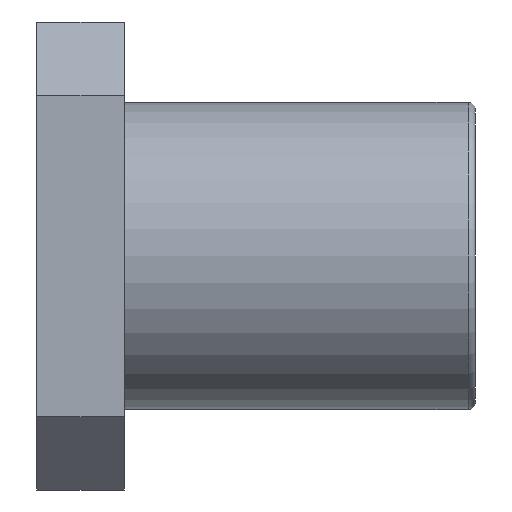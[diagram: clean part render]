
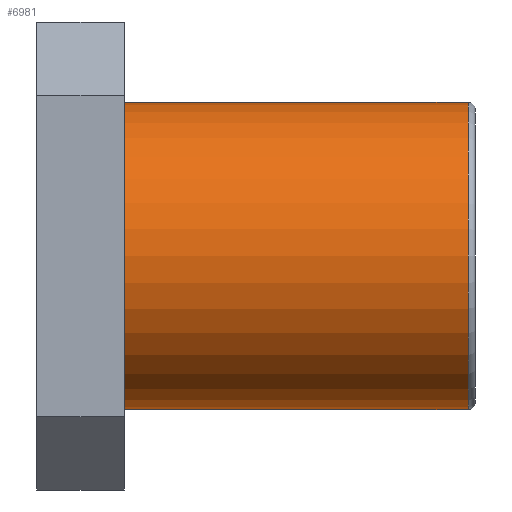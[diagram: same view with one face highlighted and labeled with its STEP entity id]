
A CAD part, left-side view. The second image highlights one B-rep face of the part: STEP entity #6981.
In plain terms, the highlighted cylindrical face has radius 10.5 mm (diameter 21 mm), a partial arc.
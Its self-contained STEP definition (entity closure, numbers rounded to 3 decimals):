
#85 = CARTESIAN_POINT ( 'NONE',  ( 0., -24., 0. ) ) ;
#310 = ORIENTED_EDGE ( 'NONE', *, *, #1267, .T. ) ;
#474 = LINE ( 'NONE', #842, #3219 ) ;
#789 = DIRECTION ( 'NONE',  ( 0., 1., 0. ) ) ;
#842 = CARTESIAN_POINT ( 'NONE',  ( 0., -24., 10.5 ) ) ;
#1205 = DIRECTION ( 'NONE',  ( 0., 0., 1. ) ) ;
#1252 = DIRECTION ( 'NONE',  ( 0., 1., 0. ) ) ;
#1267 = EDGE_CURVE ( 'NONE', #3528, #4666, #474, .T. ) ;
#1361 = DIRECTION ( 'NONE',  ( 0., 1., 0. ) ) ;
#1373 = CARTESIAN_POINT ( 'NONE',  ( 0., -23.5, 10.5 ) ) ;
#1770 = LINE ( 'NONE', #2925, #7002 ) ;
#2634 = FACE_OUTER_BOUND ( 'NONE', #4002, .T. ) ;
#2657 = AXIS2_PLACEMENT_3D ( 'NONE', #5907, #789, #3057 ) ;
#2851 = AXIS2_PLACEMENT_3D ( 'NONE', #5335, #1361, #3641 ) ;
#2925 = CARTESIAN_POINT ( 'NONE',  ( 0., -24., -10.5 ) ) ;
#3057 = DIRECTION ( 'NONE',  ( 0., 0., 1. ) ) ;
#3219 = VECTOR ( 'NONE', #5369, 1000. ) ;
#3475 = CARTESIAN_POINT ( 'NONE',  ( 0., 0., -10.5 ) ) ;
#3528 = VERTEX_POINT ( 'NONE', #1373 ) ;
#3641 = DIRECTION ( 'NONE',  ( 0., 0., 1. ) ) ;
#4002 = EDGE_LOOP ( 'NONE', ( #4735, #5941, #310, #5506 ) ) ;
#4472 = CARTESIAN_POINT ( 'NONE',  ( 0., 0., 10.5 ) ) ;
#4509 = CYLINDRICAL_SURFACE ( 'NONE', #6319, 10.5 ) ;
#4665 = DIRECTION ( 'NONE',  ( 0., 1., 0. ) ) ;
#4666 = VERTEX_POINT ( 'NONE', #4472 ) ;
#4735 = ORIENTED_EDGE ( 'NONE', *, *, #6551, .F. ) ;
#5310 = CARTESIAN_POINT ( 'NONE',  ( 0., -23.5, -10.5 ) ) ;
#5335 = CARTESIAN_POINT ( 'NONE',  ( 0., -23.5, 0. ) ) ;
#5369 = DIRECTION ( 'NONE',  ( 0., 1., 0. ) ) ;
#5375 = CIRCLE ( 'NONE', #2657, 10.5 ) ;
#5506 = ORIENTED_EDGE ( 'NONE', *, *, #7071, .F. ) ;
#5895 = VERTEX_POINT ( 'NONE', #5310 ) ;
#5907 = CARTESIAN_POINT ( 'NONE',  ( 0., 0., 0. ) ) ;
#5941 = ORIENTED_EDGE ( 'NONE', *, *, #5949, .T. ) ;
#5949 = EDGE_CURVE ( 'NONE', #5895, #3528, #7264, .T. ) ;
#6319 = AXIS2_PLACEMENT_3D ( 'NONE', #85, #1252, #1205 ) ;
#6429 = VERTEX_POINT ( 'NONE', #3475 ) ;
#6551 = EDGE_CURVE ( 'NONE', #5895, #6429, #1770, .T. ) ;
#6981 = ADVANCED_FACE ( 'NONE', ( #2634 ), #4509, .T. ) ;
#7002 = VECTOR ( 'NONE', #4665, 1000. ) ;
#7071 = EDGE_CURVE ( 'NONE', #6429, #4666, #5375, .T. ) ;
#7264 = CIRCLE ( 'NONE', #2851, 10.5 ) ;
